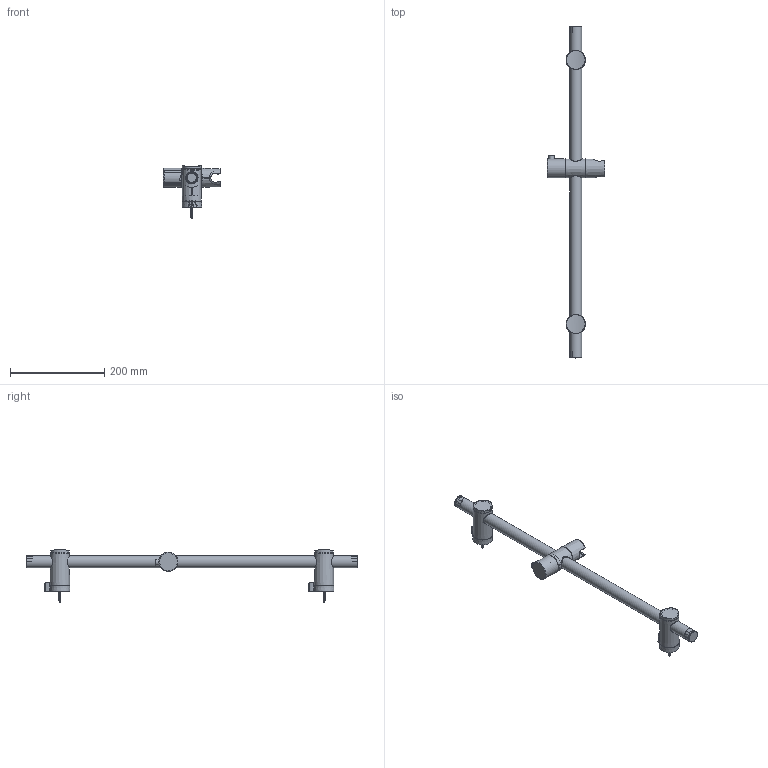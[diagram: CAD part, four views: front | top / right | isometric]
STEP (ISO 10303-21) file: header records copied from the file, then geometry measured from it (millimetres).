
FILE_DESCRIPTION(/* description */ (''),/* implementation_level */ '2;1');
FILE_NAME(/* name */ 'c:\worker\convert-fusion-r09\tmp\job-1\8\output\files\8d581dac-d926-47af-aa99-8dda8576a6ae\8d13a7e7-91eb-4392-ad34-e814d9f3bfbb.stp',/* time_stamp */ '2019-12-14T15:48:14+00:00',/* author */ (''),/* organization */ (''),/* preprocessor_version */ 'ST-DEVELOPER v18',/* originating_system */ 'Autodesk Translation Framework v8.12.0.6',/* authorisation */ '');
FILE_SCHEMA (('AUTOMOTIVE_DESIGN { 1 0 10303 214 3 1 1 }'));
Length unit declared in the file: millimetre
Products named in the file (1): !DR10
Bounding box: 122.15 x 704 x 112.21 mm (x, y, z)
Volume: 180516.3 mm3; surface area: 249041.6 mm2
Topology: 20 solids, 20 shells, 1890 faces, 5099 edges, 3322 vertices
Faces by surface type: plane 714, bspline 451, cylinder 350, cone 216, torus 137, sphere 22
Full cylindrical faces by diameter (mm): 1.55 x2, 4.2 x34, 4.5 x2, 5 x1, 8 x2, 9.9 x1, 11 x1, 11.5 x1, 12 x1, 14.6 x1, 19.7 x2, 22.9 x2, 24 x1, 25 x3, 25.3 x1, 25.4 x4, 27.3 x1, 27.9 x2, 29.4 x2, 32.8 x3, 34 x2, 34.8 x1, 34.85 x1, 35.6 x1, 35.65 x2, 36 x2, 37.8 x2, 40 x4
Entity records: 112955 total; most frequent: CARTESIAN_POINT 67957, ORIENTED_EDGE 10194, DIRECTION 8684, EDGE_CURVE 5097, AXIS2_PLACEMENT_3D 3523, VERTEX_POINT 3322, EDGE_LOOP 2009, FACE_OUTER_BOUND 1890
